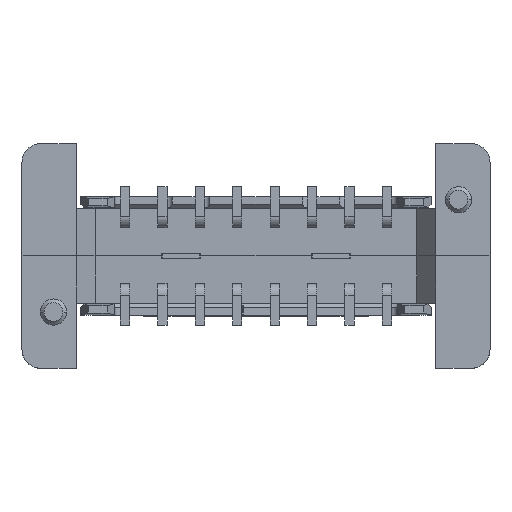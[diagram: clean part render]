
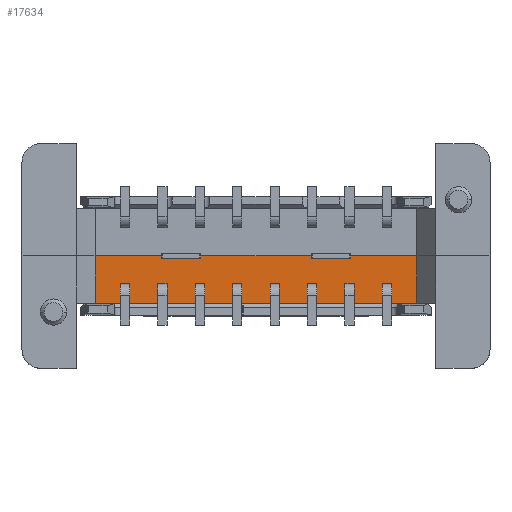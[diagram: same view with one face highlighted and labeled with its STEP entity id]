
A CAD part, top view. The second image highlights one B-rep face of the part: STEP entity #17634.
In plain terms, the highlighted planar face has unit normal (0, 0, 1) as drawn and (0, 0, -1) by its records, which use the part's own axes.
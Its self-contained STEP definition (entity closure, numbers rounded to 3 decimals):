
#595=DIRECTION('',(-1.,0.,0.));
#596=VECTOR('',#595,1.06);
#597=CARTESIAN_POINT('',(2.53,-0.24,-9.35));
#598=LINE('',#597,#596);
#616=DIRECTION('',(-1.,0.,0.));
#617=VECTOR('',#616,1.06);
#618=CARTESIAN_POINT('',(-1.47,-0.24,-9.35));
#619=LINE('',#618,#617);
#8230=DIRECTION('',(0.,-1.,0.));
#8231=VECTOR('',#8230,0.06);
#8232=CARTESIAN_POINT('',(-2.53,-0.24,-9.35));
#8233=LINE('',#8232,#8231);
#8281=DIRECTION('',(0.,-1.,0.));
#8282=VECTOR('',#8281,0.06);
#8283=CARTESIAN_POINT('',(-1.47,-0.24,-9.35));
#8284=LINE('',#8283,#8282);
#8288=DIRECTION('',(1.,0.,0.));
#8289=VECTOR('',#8288,2.94);
#8290=CARTESIAN_POINT('',(-1.47,-0.3,-9.35));
#8291=LINE('',#8290,#8289);
#8295=DIRECTION('',(0.,-1.,0.));
#8296=VECTOR('',#8295,0.06);
#8297=CARTESIAN_POINT('',(2.53,-0.24,-9.35));
#8298=LINE('',#8297,#8296);
#8302=DIRECTION('',(1.,0.,0.));
#8303=VECTOR('',#8302,1.77);
#8304=CARTESIAN_POINT('',(2.53,-0.3,-9.35));
#8305=LINE('',#8304,#8303);
#8309=DIRECTION('',(0.,-1.,0.));
#8310=VECTOR('',#8309,1.26);
#8311=CARTESIAN_POINT('',(-4.3,0.96,-9.35));
#8312=LINE('',#8311,#8310);
#8316=DIRECTION('',(1.,0.,0.));
#8317=VECTOR('',#8316,1.77);
#8318=CARTESIAN_POINT('',(-4.3,-0.3,-9.35));
#8319=LINE('',#8318,#8317);
#8365=DIRECTION('',(0.,-1.,0.));
#8366=VECTOR('',#8365,0.06);
#8367=CARTESIAN_POINT('',(1.47,-0.24,-9.35));
#8368=LINE('',#8367,#8366);
#8379=DIRECTION('',(0.,-1.,0.));
#8380=VECTOR('',#8379,1.26);
#8381=CARTESIAN_POINT('',(4.3,0.96,-9.35));
#8382=LINE('',#8381,#8380);
#8494=DIRECTION('',(1.,0.,0.));
#8495=VECTOR('',#8494,8.6);
#8496=CARTESIAN_POINT('',(-4.3,0.96,-9.35));
#8497=LINE('',#8496,#8495);
#9567=CARTESIAN_POINT('',(4.3,-0.3,-9.35));
#9568=VERTEX_POINT('',#9567);
#9569=CARTESIAN_POINT('',(2.53,-0.3,-9.35));
#9570=VERTEX_POINT('',#9569);
#9593=CARTESIAN_POINT('',(-4.3,-0.3,-9.35));
#9594=CARTESIAN_POINT('',(-2.53,-0.3,-9.35));
#9595=VERTEX_POINT('',#9593);
#9596=VERTEX_POINT('',#9594);
#9609=CARTESIAN_POINT('',(-1.47,-0.3,-9.35));
#9610=CARTESIAN_POINT('',(1.47,-0.3,-9.35));
#9611=VERTEX_POINT('',#9609);
#9612=VERTEX_POINT('',#9610);
#9613=CARTESIAN_POINT('',(4.3,0.96,-9.35));
#9614=VERTEX_POINT('',#9613);
#9615=CARTESIAN_POINT('',(-4.3,0.96,-9.35));
#9616=VERTEX_POINT('',#9615);
#10817=CARTESIAN_POINT('',(2.53,-0.24,-9.35));
#10818=CARTESIAN_POINT('',(1.47,-0.24,-9.35));
#10819=VERTEX_POINT('',#10817);
#10820=VERTEX_POINT('',#10818);
#10821=CARTESIAN_POINT('',(-1.47,-0.24,-9.35));
#10822=CARTESIAN_POINT('',(-2.53,-0.24,-9.35));
#10823=VERTEX_POINT('',#10821);
#10824=VERTEX_POINT('',#10822);
#17609=CARTESIAN_POINT('',(-3.7,0.95,-9.35));
#17610=DIRECTION('',(0.,0.,1.));
#17611=DIRECTION('',(1.,0.,0.));
#17612=AXIS2_PLACEMENT_3D('',#17609,#17610,#17611);
#17613=PLANE('',#17612);
#17614=ORIENTED_EDGE('',*,*,#11274,.F.);
#17616=ORIENTED_EDGE('',*,*,#17615,.T.);
#17618=ORIENTED_EDGE('',*,*,#17617,.T.);
#17620=ORIENTED_EDGE('',*,*,#17619,.F.);
#17621=ORIENTED_EDGE('',*,*,#11266,.F.);
#17622=ORIENTED_EDGE('',*,*,#11730,.T.);
#17623=ORIENTED_EDGE('',*,*,#11758,.T.);
#17625=ORIENTED_EDGE('',*,*,#17624,.F.);
#17627=ORIENTED_EDGE('',*,*,#17626,.F.);
#17629=ORIENTED_EDGE('',*,*,#17628,.T.);
#17630=ORIENTED_EDGE('',*,*,#17585,.T.);
#17631=ORIENTED_EDGE('',*,*,#17574,.F.);
#17632=EDGE_LOOP('',(#17614,#17616,#17618,#17620,#17621,#17622,#17623,#17625,
#17627,#17629,#17630,#17631));
#17633=FACE_OUTER_BOUND('',#17632,.F.);
#11266=EDGE_CURVE('',#10819,#10820,#598,.T.);
#11274=EDGE_CURVE('',#10823,#10824,#619,.T.);
#11730=EDGE_CURVE('',#10819,#9570,#8298,.T.);
#11758=EDGE_CURVE('',#9570,#9568,#8305,.T.);
#17574=EDGE_CURVE('',#10824,#9596,#8233,.T.);
#17585=EDGE_CURVE('',#9595,#9596,#8319,.T.);
#17615=EDGE_CURVE('',#10823,#9611,#8284,.T.);
#17617=EDGE_CURVE('',#9611,#9612,#8291,.T.);
#17619=EDGE_CURVE('',#10820,#9612,#8368,.T.);
#17624=EDGE_CURVE('',#9614,#9568,#8382,.T.);
#17626=EDGE_CURVE('',#9616,#9614,#8497,.T.);
#17628=EDGE_CURVE('',#9616,#9595,#8312,.T.);
#17634=ADVANCED_FACE('',(#17633),#17613,.F.);
